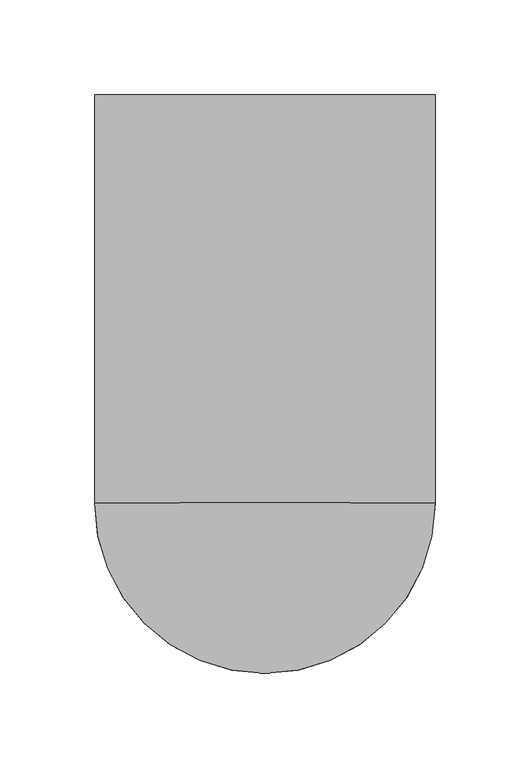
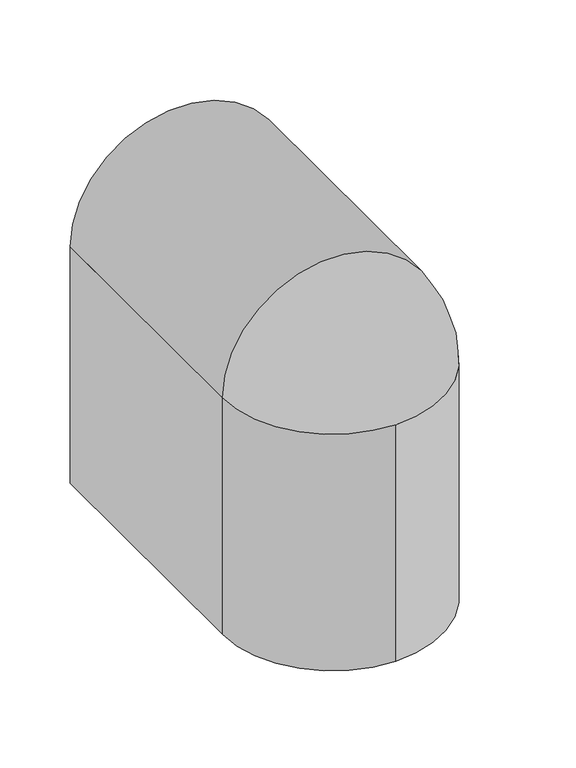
"""IFC4 building model written with IfcOpenShell, lengths in millimetres: sanitary terminal geometry, RSen_74_PF_FB_siphon cover_wisa : pergamon_wisa_sydney siphon cover."""

from ifc_helpers import new_model, si_unit, point, frame, frame_2d, origin, origin_with_axes, place, context, project, spatial, polyline, circle_curve, ellipse_curve, trimmed, segment, composite_curve, outline, extrude, source, transform, mapped, element, save
from ifc_brep_helpers import plane_surface, cylinder_surface, revolved_surface, advanced_brep


def sanitary_terminal_dc5b8a1a(model_context):
    return source(origin(), model_context, "Body", "SolidModel", [
        advanced_brep(
        [(-90.0913734, -215.9976989, 205.0), (-90.0913734, 0.0, 205.0), (-88.0913734, 0.0, 205.0), (-88.0913734, -215.9976989, 205.0), (0.0, -304.0890723, 205.0), (0.0, -306.0890723, 205.0), (90.0913734, -215.9976989, 205.0), (88.0913734, -215.9976989, 205.0), (88.0913734, 0.0, 205.0), (90.0913734, 0.0, 205.0)],
        [
            (0, 1),
            (1, 2),
            (2, 3),
            (3, 4, circle_curve(frame((0.0, -215.9976989, 205.0), z_axis=(0.0, 0.0, 1.0), x_axis=(-1.0, 0.0, 0.0)), 88.0913734)),
            (4, 5),
            (5, 0, circle_curve(frame((0.0, -215.9976989, 205.0), z_axis=(0.0, 0.0, -1.0), x_axis=(-1.0, 0.0, 0.0)), 90.0913734)),
            (6, 5, circle_curve(frame((0.0, -215.9976989, 205.0), z_axis=(0.0, 0.0, -1.0), x_axis=(1.0, 0.0, 0.0)), 90.0913734)),
            (4, 7, circle_curve(frame((0.0, -215.9976989, 205.0), z_axis=(0.0, 0.0, 1.0), x_axis=(1.0, 0.0, 0.0)), 88.0913734)),
            (7, 8),
            (8, 9),
            (9, 6),
            (6, 0, circle_curve(frame((0.0, -215.9976989, 205.0), z_axis=(0.0, -1.0, 0.0), x_axis=(-1.0, 0.0, 0.0)), 90.0913734)),
            (3, 7, circle_curve(frame((0.0, -215.9976989, 205.0), z_axis=(0.0, 1.0, 0.0), x_axis=(-1.0, 0.0, 0.0)), 88.0913734)),
            (2, 8, circle_curve(frame((0.0, 0.0, 205.0), z_axis=(0.0, 1.0, 0.0), x_axis=(-1.0, 0.0, 0.0)), 88.0913734)),
            (1, 9, circle_curve(frame((0.0, 0.0, 205.0), z_axis=(0.0, 1.0, 0.0), x_axis=(-1.0, 0.0, 0.0)), 90.0913734)),
        ],
        [
            plane_surface(frame((0.0, 15.0, 205.0), z_axis=(0.0, 0.0, -1.0), x_axis=(-1.0, 0.0, 0.0))),
            plane_surface(frame((0.0, 15.0, 205.0), z_axis=(0.0, 0.0, -1.0), x_axis=(1.0, 0.0, 0.0))),
            revolved_surface(trimmed(ellipse_curve(frame((0.0, -215.9976989, 205.0), z_axis=(0.0, 0.0, -1.0), x_axis=(-1.0, 0.0, 0.0)), 90.0913734, 90.0913734), [point((0.0, -306.0890723, 205.0))], [point((-90.0913734, -215.9976989, 205.0))], True, "CARTESIAN"), (0.0, 15.0, 205.0), (0.0, 1.0, 0.0)),
            revolved_surface(trimmed(ellipse_curve(frame((0.0, -215.9976989, 205.0), z_axis=(0.0, 0.0, 1.0), x_axis=(-1.0, 0.0, 0.0)), 88.0913734, 88.0913734), [point((-88.0913734, -215.9976989, 205.0))], [point((0.0, -304.0890723, 205.0))], True, "CARTESIAN"), (0.0, 15.0, 205.0), (0.0, 1.0, 0.0)),
            revolved_surface(polyline([(-88.0913734, 0.0, 205.0), (-88.0913734, -215.9976989, 205.0)]), (0.0, 15.0, 205.0), (0.0, 1.0, 0.0)),
            plane_surface(frame((0.0, 0.0, 205.0), z_axis=(0.0, 1.0, 0.0), x_axis=(-1.0, 0.0, 0.0))),
            cylinder_surface(frame((0.0, 15.0, 205.0), z_axis=(0.0, 1.0, 0.0), x_axis=(-1.0, 0.0, 0.0)), 90.0913734),
        ],
        [
            (0, [[1, 2, 3, 4, 5, 6]]),
            (1, [[7, -5, 8, 9, 10, 11]]),
            (2, [[12, -6, -7]]),
            (3, [[-4, 13, -8]]),
            (4, [[-13, -3, 14, -9]]),
            (5, [[-14, -2, 15, -10]]),
            (6, [[-15, -1, -12, -11]]),
        ],
    ),
        extrude(outline(composite_curve([segment(trimmed(circle_curve(frame_2d((0.0, -215.9976989)), 90.0913734), [point((0.0, -306.0890723))], [point((-90.0913734, -215.9976989))], False, "CARTESIAN"), True, "CONTINUOUS"), segment(polyline([(-90.0913734, -215.9976989), (-88.0913734, -215.9976989)]), True, "CONTINUOUS"), segment(trimmed(circle_curve(frame_2d((0.0, -215.9976989)), 88.0913734), [point((-88.0913734, -215.9976989))], [point((0.0, -304.0890723))], True, "CARTESIAN"), True, "CONTINUOUS"), segment(trimmed(circle_curve(frame_2d((0.0, -215.9976989)), 88.0913734), [point((0.0, -304.0890723))], [point((88.0913734, -215.9976989))], True, "CARTESIAN"), True, "CONTINUOUS"), segment(polyline([(88.0913734, -215.9976989), (90.0913734, -215.9976989)]), True, "CONTINUOUS"), segment(trimmed(circle_curve(frame_2d((0.0, -215.9976989)), 90.0913734), [point((90.0913734, -215.9976989))], [point((0.0, -306.0890723))], False, "CARTESIAN"), True, "CONTINUOUS")], self_intersect=False)), origin_with_axes(), (0.0, 0.0, 1.0), 205.0),
        extrude(outline(polyline([(88.0913734, 0.0), (90.0913734, 0.0), (90.0913734, -215.9976989), (88.0913734, -215.9976989), (88.0913734, 0.0)])), origin_with_axes(), (0.0, 0.0, 1.0), 205.0),
        extrude(outline(polyline([(-90.0913734, 0.0), (-88.0913734, 0.0), (-88.0913734, -215.9976989), (-90.0913734, -215.9976989), (-90.0913734, 0.0)])), origin_with_axes(), (0.0, 0.0, 1.0), 205.0),
    ])


if __name__ == "__main__":
    model = new_model("IFC4")
    model_context = context("Model", 3, world=origin())
    ifc_project = project(units=[si_unit("LENGTHUNIT", "METRE", prefix="MILLI")], contexts=[model_context])
    site = spatial("IfcSite", under=ifc_project)
    building = spatial("IfcBuilding", under=site)
    placement = place(None, origin())
    sanitary_terminal_shape = sanitary_terminal_dc5b8a1a(model_context)
    element("IfcSanitaryTerminal", 1, ObjectType="RSen_74_PF_FB_siphon cover_wisa : pergamon_wisa_sydney siphon cover", at=placement, inside=building, context=model_context, shape_type="MappedRepresentation", body=[
        mapped(sanitary_terminal_shape, transform((0.0, 0.0, 0.0), x_axis=(1.0, 0.0, 0.0), y_axis=(0.0, 1.0, 0.0), z_axis=(0.0, 0.0, 1.0))),
    ])
    save(model, "model.ifc")
